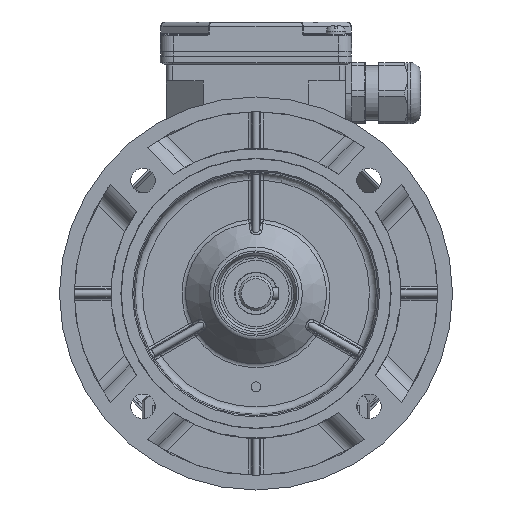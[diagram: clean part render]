
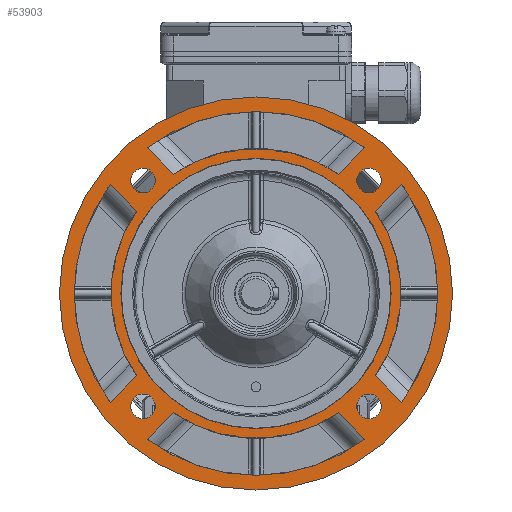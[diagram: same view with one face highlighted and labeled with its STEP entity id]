
A CAD part, front view. The second image highlights one B-rep face of the part: STEP entity #53903.
In plain terms, the highlighted planar face has unit normal (0, -1, 0).
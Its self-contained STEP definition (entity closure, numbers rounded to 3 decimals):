
#3935=CIRCLE('',#56926,59.);
#3936=CIRCLE('',#56929,74.);
#3937=CIRCLE('',#56932,59.);
#3938=CIRCLE('',#56935,74.);
#3939=CIRCLE('',#56937,55.);
#3940=CIRCLE('',#56940,59.);
#3941=CIRCLE('',#56943,74.);
#3942=CIRCLE('',#56945,59.);
#3943=CIRCLE('',#56948,74.);
#3946=CIRCLE('',#56954,80.);
#3947=CIRCLE('',#56956,5.);
#3948=CIRCLE('',#56957,5.);
#3949=CIRCLE('',#56958,5.);
#3950=CIRCLE('',#56959,5.);
#10614=ORIENTED_EDGE('',*,*,#19386,.F.);
#10615=ORIENTED_EDGE('',*,*,#19387,.F.);
#10616=ORIENTED_EDGE('',*,*,#19388,.F.);
#10617=ORIENTED_EDGE('',*,*,#19389,.F.);
#10618=ORIENTED_EDGE('',*,*,#19382,.F.);
#10619=ORIENTED_EDGE('',*,*,#19380,.F.);
#10620=ORIENTED_EDGE('',*,*,#19379,.T.);
#10621=ORIENTED_EDGE('',*,*,#19376,.T.);
#10622=ORIENTED_EDGE('',*,*,#19374,.F.);
#10623=ORIENTED_EDGE('',*,*,#19372,.T.);
#10624=ORIENTED_EDGE('',*,*,#19370,.T.);
#10625=ORIENTED_EDGE('',*,*,#19368,.F.);
#10626=ORIENTED_EDGE('',*,*,#19366,.F.);
#10627=ORIENTED_EDGE('',*,*,#19365,.F.);
#10628=ORIENTED_EDGE('',*,*,#19364,.T.);
#10629=ORIENTED_EDGE('',*,*,#19361,.T.);
#10630=ORIENTED_EDGE('',*,*,#19359,.F.);
#10631=ORIENTED_EDGE('',*,*,#19357,.F.);
#10632=ORIENTED_EDGE('',*,*,#19356,.T.);
#10633=ORIENTED_EDGE('',*,*,#19353,.T.);
#10634=ORIENTED_EDGE('',*,*,#19352,.F.);
#10635=ORIENTED_EDGE('',*,*,#19385,.T.);
#19352=EDGE_CURVE('',#24181,#24180,#27420,.T.);
#19353=EDGE_CURVE('',#24182,#24180,#3935,.T.);
#19356=EDGE_CURVE('',#24183,#24182,#27421,.T.);
#19357=EDGE_CURVE('',#24183,#24181,#3936,.T.);
#19359=EDGE_CURVE('',#24184,#24185,#27422,.T.);
#19361=EDGE_CURVE('',#24186,#24185,#3937,.T.);
#19364=EDGE_CURVE('',#24187,#24186,#27423,.T.);
#19365=EDGE_CURVE('',#24187,#24184,#3938,.T.);
#19366=EDGE_CURVE('',#24188,#24188,#3939,.T.);
#19368=EDGE_CURVE('',#24189,#24190,#27424,.T.);
#19370=EDGE_CURVE('',#24191,#24190,#3940,.T.);
#19372=EDGE_CURVE('',#24192,#24191,#27425,.T.);
#19374=EDGE_CURVE('',#24192,#24189,#3941,.T.);
#19376=EDGE_CURVE('',#24194,#24193,#3942,.T.);
#19379=EDGE_CURVE('',#24195,#24194,#27426,.T.);
#19380=EDGE_CURVE('',#24195,#24196,#3943,.T.);
#19382=EDGE_CURVE('',#24196,#24193,#27427,.T.);
#19385=EDGE_CURVE('',#24199,#24199,#3946,.T.);
#19386=EDGE_CURVE('',#24200,#24200,#3947,.T.);
#19387=EDGE_CURVE('',#24201,#24201,#3948,.T.);
#19388=EDGE_CURVE('',#24202,#24202,#3949,.T.);
#19389=EDGE_CURVE('',#24203,#24203,#3950,.T.);
#24180=VERTEX_POINT('',#80399);
#24181=VERTEX_POINT('',#80404);
#24182=VERTEX_POINT('',#80408);
#24183=VERTEX_POINT('',#80418);
#24184=VERTEX_POINT('',#80427);
#24185=VERTEX_POINT('',#80429);
#24186=VERTEX_POINT('',#80436);
#24187=VERTEX_POINT('',#80446);
#24188=VERTEX_POINT('',#80452);
#24189=VERTEX_POINT('',#80458);
#24190=VERTEX_POINT('',#80460);
#24191=VERTEX_POINT('',#80467);
#24192=VERTEX_POINT('',#80474);
#24193=VERTEX_POINT('',#80486);
#24194=VERTEX_POINT('',#80488);
#24195=VERTEX_POINT('',#80498);
#24196=VERTEX_POINT('',#80502);
#24199=VERTEX_POINT('',#80516);
#24200=VERTEX_POINT('',#80519);
#24201=VERTEX_POINT('',#80521);
#24202=VERTEX_POINT('',#80523);
#24203=VERTEX_POINT('',#80525);
#27420=LINE('',#80405,#29905);
#27421=LINE('',#80419,#29906);
#27422=LINE('',#80428,#29907);
#27423=LINE('',#80447,#29908);
#27424=LINE('',#80459,#29909);
#27425=LINE('',#80473,#29910);
#27426=LINE('',#80499,#29911);
#27427=LINE('',#80508,#29912);
#29905=VECTOR('',#63988,1000.);
#29906=VECTOR('',#63995,1000.);
#29907=VECTOR('',#64002,1000.);
#29908=VECTOR('',#64009,1000.);
#29909=VECTOR('',#64020,1000.);
#29910=VECTOR('',#64027,1000.);
#29911=VECTOR('',#64038,1000.);
#29912=VECTOR('',#64045,1000.);
#32425=EDGE_LOOP('',(#10614));
#32426=EDGE_LOOP('',(#10615));
#32427=EDGE_LOOP('',(#10616));
#32428=EDGE_LOOP('',(#10617));
#32429=EDGE_LOOP('',(#10618,#10619,#10620,#10621));
#32430=EDGE_LOOP('',(#10622,#10623,#10624,#10625));
#32431=EDGE_LOOP('',(#10626));
#32432=EDGE_LOOP('',(#10627,#10628,#10629,#10630));
#32433=EDGE_LOOP('',(#10631,#10632,#10633,#10634));
#32434=EDGE_LOOP('',(#10635));
#35035=FACE_BOUND('',#32425,.T.);
#35036=FACE_BOUND('',#32426,.T.);
#35037=FACE_BOUND('',#32427,.T.);
#35038=FACE_BOUND('',#32428,.T.);
#35039=FACE_BOUND('',#32429,.T.);
#35040=FACE_BOUND('',#32430,.T.);
#35041=FACE_BOUND('',#32431,.T.);
#35042=FACE_BOUND('',#32432,.T.);
#35043=FACE_BOUND('',#32433,.T.);
#35044=FACE_BOUND('',#32434,.T.);
#36715=PLANE('',#56955);
#53903=ADVANCED_FACE('',(#35035,#35036,#35037,#35038,#35039,#35040,#35041,
#35042,#35043,#35044),#36715,.F.);
#56926=AXIS2_PLACEMENT_3D('',#80407,#63991,#63992);
#56929=AXIS2_PLACEMENT_3D('',#80421,#63998,#63999);
#56932=AXIS2_PLACEMENT_3D('',#80435,#64005,#64006);
#56935=AXIS2_PLACEMENT_3D('',#80449,#64012,#64013);
#56937=AXIS2_PLACEMENT_3D('',#80451,#64016,#64017);
#56940=AXIS2_PLACEMENT_3D('',#80466,#64023,#64024);
#56943=AXIS2_PLACEMENT_3D('',#80480,#64030,#64031);
#56945=AXIS2_PLACEMENT_3D('',#80487,#64034,#64035);
#56948=AXIS2_PLACEMENT_3D('',#80501,#64041,#64042);
#56954=AXIS2_PLACEMENT_3D('',#80515,#64054,#64055);
#56955=AXIS2_PLACEMENT_3D('',#80517,#64056,#64057);
#56956=AXIS2_PLACEMENT_3D('',#80518,#64058,#64059);
#56957=AXIS2_PLACEMENT_3D('',#80520,#64060,#64061);
#56958=AXIS2_PLACEMENT_3D('',#80522,#64062,#64063);
#56959=AXIS2_PLACEMENT_3D('',#80524,#64064,#64065);
#63988=DIRECTION('',(-0.707,0.,-0.707));
#63991=DIRECTION('',(0.,-1.,0.));
#63992=DIRECTION('',(0.,0.,-1.));
#63995=DIRECTION('',(-0.707,0.,0.707));
#63998=DIRECTION('',(0.,-1.,0.));
#63999=DIRECTION('',(0.,0.,-1.));
#64002=DIRECTION('',(-0.707,0.,0.707));
#64005=DIRECTION('',(0.,-1.,0.));
#64006=DIRECTION('',(0.,0.,-1.));
#64009=DIRECTION('',(0.707,0.,0.707));
#64012=DIRECTION('',(0.,-1.,0.));
#64013=DIRECTION('',(0.,0.,-1.));
#64016=DIRECTION('',(0.,-1.,0.));
#64017=DIRECTION('',(0.,0.,-1.));
#64020=DIRECTION('',(0.707,0.,0.707));
#64023=DIRECTION('',(0.,-1.,0.));
#64024=DIRECTION('',(0.,0.,-1.));
#64027=DIRECTION('',(0.707,0.,-0.707));
#64030=DIRECTION('',(0.,-1.,0.));
#64031=DIRECTION('',(0.,0.,-1.));
#64034=DIRECTION('',(0.,-1.,0.));
#64035=DIRECTION('',(0.,0.,-1.));
#64038=DIRECTION('',(-0.707,0.,-0.707));
#64041=DIRECTION('',(0.,-1.,0.));
#64042=DIRECTION('',(0.,0.,-1.));
#64045=DIRECTION('',(0.707,0.,-0.707));
#64054=DIRECTION('',(0.,-1.,0.));
#64055=DIRECTION('',(0.,0.,-1.));
#64056=DIRECTION('',(0.,1.,0.));
#64057=DIRECTION('',(0.,0.,1.));
#64058=DIRECTION('',(0.,-1.,0.));
#64059=DIRECTION('',(1.,0.,0.));
#64060=DIRECTION('',(0.,-1.,0.));
#64061=DIRECTION('',(1.,0.,0.));
#64062=DIRECTION('',(0.,-1.,0.));
#64063=DIRECTION('',(1.,0.,0.));
#64064=DIRECTION('',(0.,-1.,0.));
#64065=DIRECTION('',(1.,0.,0.));
#80399=CARTESIAN_POINT('',(48.549,-41.,33.526));
#80404=CARTESIAN_POINT('',(59.295,-41.,44.273));
#80405=CARTESIAN_POINT('',(59.837,-41.,44.815));
#80407=CARTESIAN_POINT('',(0.,-41.,0.));
#80408=CARTESIAN_POINT('',(48.549,-41.,-33.526));
#80418=CARTESIAN_POINT('',(59.295,-41.,-44.273));
#80419=CARTESIAN_POINT('',(59.837,-41.,-44.815));
#80421=CARTESIAN_POINT('',(0.,-41.,0.));
#80427=CARTESIAN_POINT('',(44.273,-41.,-59.295));
#80428=CARTESIAN_POINT('',(44.815,-41.,-59.837));
#80429=CARTESIAN_POINT('',(33.526,-41.,-48.549));
#80435=CARTESIAN_POINT('',(0.,-41.,0.));
#80436=CARTESIAN_POINT('',(-33.526,-41.,-48.549));
#80446=CARTESIAN_POINT('',(-44.273,-41.,-59.295));
#80447=CARTESIAN_POINT('',(-44.815,-41.,-59.837));
#80449=CARTESIAN_POINT('',(0.,-41.,0.));
#80451=CARTESIAN_POINT('',(0.,-41.,0.));
#80452=CARTESIAN_POINT('',(0.,-41.,-55.));
#80458=CARTESIAN_POINT('',(-59.295,-41.,-44.273));
#80459=CARTESIAN_POINT('',(-59.837,-41.,-44.815));
#80460=CARTESIAN_POINT('',(-48.549,-41.,-33.526));
#80466=CARTESIAN_POINT('',(0.,-41.,0.));
#80467=CARTESIAN_POINT('',(-48.549,-41.,33.526));
#80473=CARTESIAN_POINT('',(-59.837,-41.,44.815));
#80474=CARTESIAN_POINT('',(-59.295,-41.,44.273));
#80480=CARTESIAN_POINT('',(0.,-41.,0.));
#80486=CARTESIAN_POINT('',(-33.526,-41.,48.549));
#80487=CARTESIAN_POINT('',(0.,-41.,0.));
#80488=CARTESIAN_POINT('',(33.526,-41.,48.549));
#80498=CARTESIAN_POINT('',(44.273,-41.,59.295));
#80499=CARTESIAN_POINT('',(44.815,-41.,59.837));
#80501=CARTESIAN_POINT('',(0.,-41.,0.));
#80502=CARTESIAN_POINT('',(-44.273,-41.,59.295));
#80508=CARTESIAN_POINT('',(-44.815,-41.,59.837));
#80515=CARTESIAN_POINT('',(0.,-41.,0.));
#80516=CARTESIAN_POINT('',(0.,-41.,-80.));
#80517=CARTESIAN_POINT('',(0.,-41.,55.));
#80518=CARTESIAN_POINT('',(45.962,-41.,45.962));
#80519=CARTESIAN_POINT('',(50.962,-41.,45.962));
#80520=CARTESIAN_POINT('',(45.962,-41.,-45.962));
#80521=CARTESIAN_POINT('',(50.962,-41.,-45.962));
#80522=CARTESIAN_POINT('',(-45.962,-41.,-45.962));
#80523=CARTESIAN_POINT('',(-40.962,-41.,-45.962));
#80524=CARTESIAN_POINT('',(-45.962,-41.,45.962));
#80525=CARTESIAN_POINT('',(-40.962,-41.,45.962));
